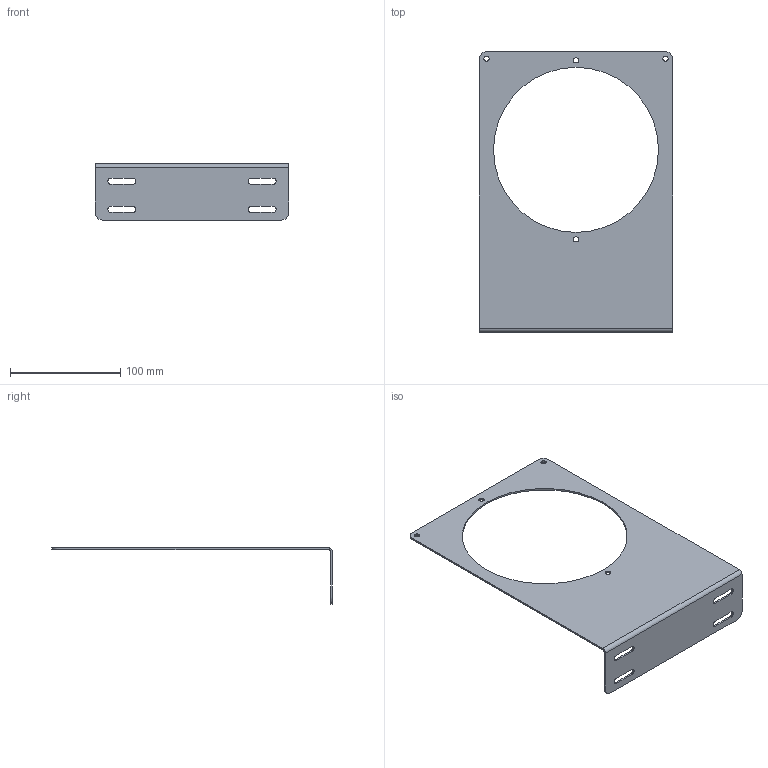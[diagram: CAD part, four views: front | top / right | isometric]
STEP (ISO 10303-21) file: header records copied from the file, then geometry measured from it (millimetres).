
FILE_DESCRIPTION((''),'2;1');
FILE_NAME('SCE-111252','2010-08-03T',('dougp'),(''),'PRO/ENGINEER BY PARAMETRIC TECHNOLOGY CORPORATION, 2009230','PRO/ENGINEER BY PARAMETRIC TECHNOLOGY CORPORATION, 2009230','');
FILE_SCHEMA(('AUTOMOTIVE_DESIGN { 1 0 10303 214 1 1 1 1 }'));
Length unit declared in the file: inch
Products named in the file (1): SCE-111252
Bounding box: 174.75 x 254 x 50.8 mm (x, y, z)
Volume: 52772.3 mm3; surface area: 71846.1 mm2
Topology: 1 solids, 1 shells, 52 faces, 142 edges, 92 vertices
Faces by surface type: plane 28, cylinder 24
Entity records: 1721 total; most frequent: DIRECTION 294, CARTESIAN_POINT 287, ORIENTED_EDGE 284, EDGE_CURVE 142, AXIS2_PLACEMENT_3D 100, VECTOR 94, LINE 94, VERTEX_POINT 92
